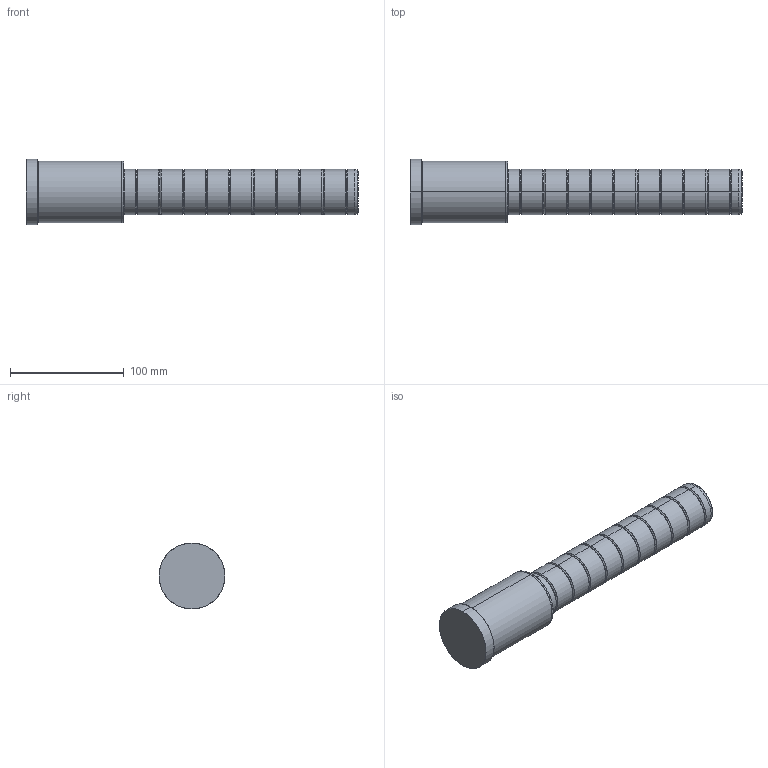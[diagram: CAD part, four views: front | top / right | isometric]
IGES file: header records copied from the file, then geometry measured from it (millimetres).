
Start section: SolidWorks IGES file using analytic representation for surfaces
Global section: file name: C:\Documents and Settings\kalite-mail\Desktop\IGS\D02\40\D02 - 40x86x206.IGS; native system: SolidWorks 2008; preprocessor: SolidWorks 2008; author: kalite-mail; date: 080617.101348; units: millimetre
Bounding box: 292 x 58 x 58 mm (x, y, z)
Surface area: 47005.1 mm2 (no closed solid volume)
Topology: 0 solids, 0 shells, 84 faces, 952 edges, 952 vertices
Faces by surface type: bspline 50, revolution 34
